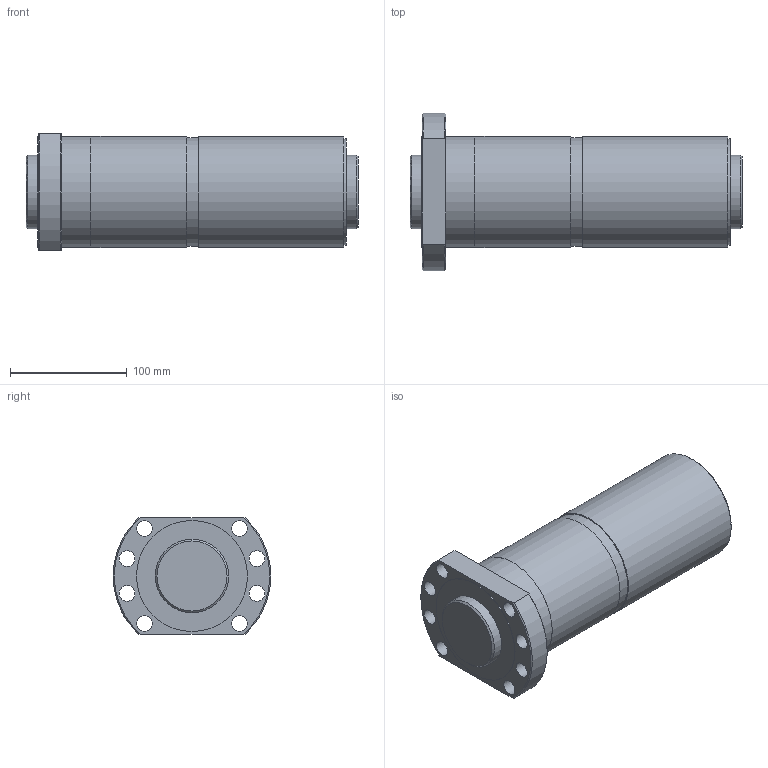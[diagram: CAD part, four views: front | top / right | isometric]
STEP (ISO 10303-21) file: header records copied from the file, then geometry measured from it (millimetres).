
FILE_DESCRIPTION(/* description */ ('STEP AP203'),/* implementation_level */ '2;1');
FILE_NAME(/* name */ 'SDAN6330VX-4G0+284LC0(0G000)',/* time_stamp */ '2024-07-04T10:23:45+02:00',/* author */ ('License CC BY-ND 4.0'),/* organization */ ('CADENAS'),/* preprocessor_version */ 'ST-DEVELOPER v19.3',/* originating_system */ 'PARTsolutions',/* authorisation */ ' ');
FILE_SCHEMA (('CONFIG_CONTROL_DESIGN'));
Length unit declared in the file: millimetre
Products named in the file (3): SDAN6330VX-4G0+284LC0(0G000); 0SDAN6330VX-40Shaft; SDAN6330VX-4_nut
Assembly tree (2 placements, depth 2):
  SDAN6330VX-4G0+284LC0(0G000)
    0SDAN6330VX-40Shaft
    SDAN6330VX-4_nut
Bounding box: 284 x 135 x 100 mm (x, y, z)
Volume: 2005701.1 mm3; surface area: 219334.9 mm2
Topology: 2 solids, 2 shells, 41 faces, 95 edges, 65 vertices
Faces by surface type: cylinder 21, plane 13, cone 7
Full cylindrical faces by diameter (mm): 5.2 x1, 6.917 x1, 13.5 x8, 63 x2, 91 x1, 93 x1, 93.1 x1, 95 x4
Entity records: 1143 total; most frequent: CARTESIAN_POINT 208, DIRECTION 188, ORIENTED_EDGE 128, EDGE_LOOP 90, FACE_BOUND 90, AXIS2_PLACEMENT_3D 90, EDGE_CURVE 64, VERTEX_POINT 56
